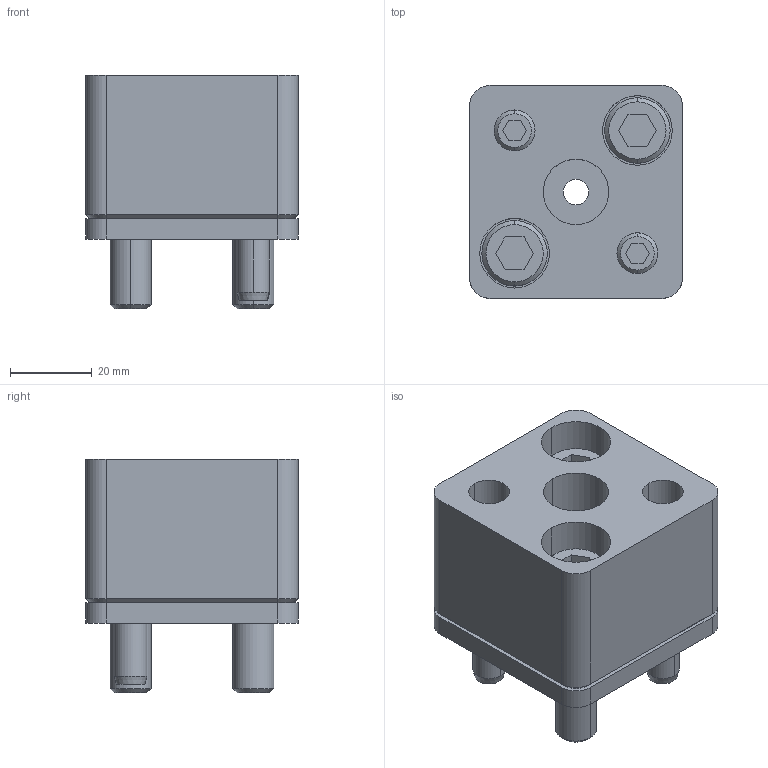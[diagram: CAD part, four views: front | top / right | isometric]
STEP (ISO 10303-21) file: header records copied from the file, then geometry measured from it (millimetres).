
FILE_DESCRIPTION(/* description */ (''),/* implementation_level */ '2;1');
FILE_NAME(/* name */ '3d_hsa-ap16_04178_r00.stp',/* time_stamp */ '2011-01-10T14:14:37+09:00',/* author */ ('MISUMI'),/* organization */ (''),/* preprocessor_version */ 'ST-DEVELOPER v11',/* originating_system */ 'UGS - NX 5.0',/* authorisation */ '');
FILE_SCHEMA (('CONFIG_CONTROL_DESIGN'));
Length unit declared in the file: millimetre
Products named in the file (1): 3d_hsa-ap16_04178_r00
Bounding box: 52 x 52 x 57 mm (x, y, z)
Volume: 94485.4 mm3; surface area: 32006.2 mm2
Topology: 8 solids, 8 shells, 163 faces, 364 edges, 232 vertices
Faces by surface type: plane 69, cylinder 64, cone 30
Entity records: 4686 total; most frequent: DIRECTION 840, CARTESIAN_POINT 814, ORIENTED_EDGE 728, EDGE_CURVE 364, AXIS2_PLACEMENT_3D 322, VERTEX_POINT 232, EDGE_LOOP 198, LINE 196
